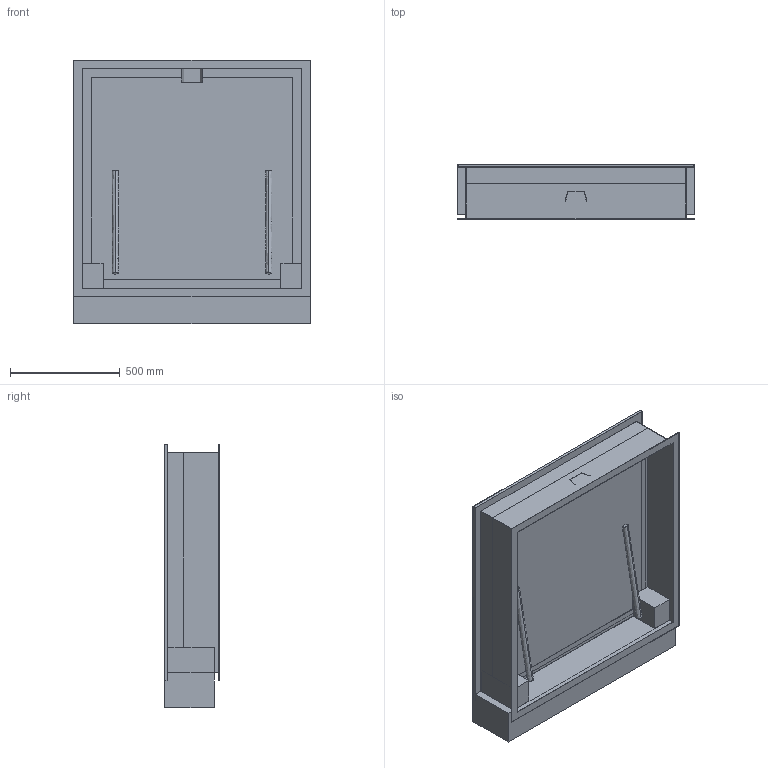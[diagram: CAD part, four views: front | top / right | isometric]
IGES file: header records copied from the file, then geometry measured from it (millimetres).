
Start section:  PTC IGES file: 51581647.igs
Global section: file name: 51581647.igs; native system: Creo Parametric by PTC Inc.; preprocessor: 2019224; author: gm; organization: Unknown; date: 20210216.135823; units: millimetre
Bounding box: 1078 x 250 x 1200 mm (x, y, z)
Surface area: 5763830 mm2 (no closed solid volume)
Topology: 0 solids, 0 shells, 92 faces, 480 edges, 480 vertices
Faces by surface type: bspline 81, revolution 11
